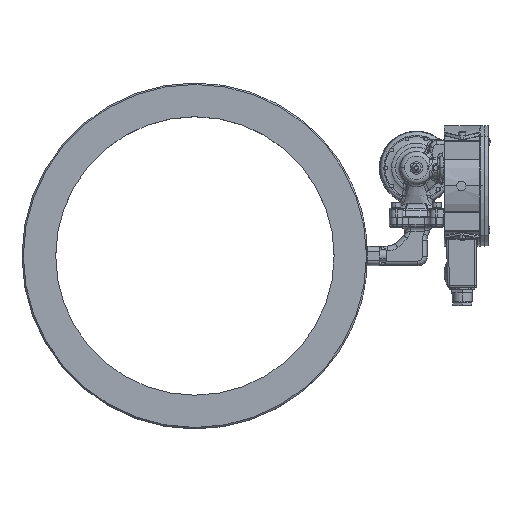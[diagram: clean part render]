
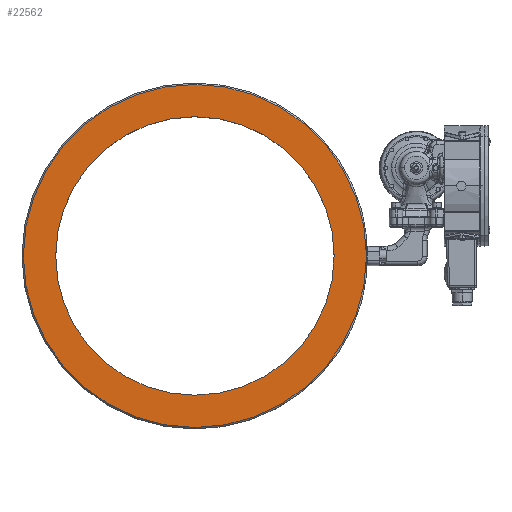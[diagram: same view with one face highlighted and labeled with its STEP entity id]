
A CAD part, top view. The second image highlights one B-rep face of the part: STEP entity #22562.
In plain terms, the highlighted planar face has unit normal (0, 0, 1).
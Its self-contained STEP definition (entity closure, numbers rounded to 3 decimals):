
#42 = ORIENTED_EDGE ( 'NONE', *, *, #40468, .F. ) ;
#836 = CARTESIAN_POINT ( 'NONE',  ( -246.69, 123.307, 57.468 ) ) ;
#933 = EDGE_CURVE ( 'NONE', #47597, #60468, #99019, .T. ) ;
#7295 = ORIENTED_EDGE ( 'NONE', *, *, #9416, .F. ) ;
#8779 = ORIENTED_EDGE ( 'NONE', *, *, #933, .T. ) ;
#9416 = EDGE_CURVE ( 'NONE', #101417, #37786, #96047, .T. ) ;
#10211 = EDGE_CURVE ( 'NONE', #60468, #47597, #59589, .T. ) ;
#13471 = EDGE_LOOP ( 'NONE', ( #60333, #8779 ) ) ;
#16350 = FACE_OUTER_BOUND ( 'NONE', #93649, .T. ) ;
#16480 = AXIS2_PLACEMENT_3D ( 'NONE', #88592, #88480, #88390 ) ;
#20010 = CIRCLE ( 'NONE', #76614, 191. ) ;
#20441 = DIRECTION ( 'NONE',  ( 0., 1., 0. ) ) ;
#20522 = DIRECTION ( 'NONE',  ( 0., 0., -1. ) ) ;
#20643 = CARTESIAN_POINT ( 'NONE',  ( -246.69, -67.693, 57.468 ) ) ;
#22302 = AXIS2_PLACEMENT_3D ( 'NONE', #53994, #49104, #48770 ) ;
#22562 = ADVANCED_FACE ( 'NONE', ( #16350, #32535 ), #41786, .T. ) ;
#26799 = CARTESIAN_POINT ( 'NONE',  ( -229.134, -67.693, 57.468 ) ) ;
#32535 = FACE_BOUND ( 'NONE', #13471, .T. ) ;
#34837 = DIRECTION ( 'NONE',  ( 1., 0., 0. ) ) ;
#37786 = VERTEX_POINT ( 'NONE', #836 ) ;
#40468 = EDGE_CURVE ( 'NONE', #37786, #101417, #20010, .T. ) ;
#41786 = PLANE ( 'NONE',  #49649 ) ;
#44655 = CARTESIAN_POINT ( 'NONE',  ( -246.69, -258.693, 57.468 ) ) ;
#46515 = DIRECTION ( 'NONE',  ( 0., 0., -1. ) ) ;
#47597 = VERTEX_POINT ( 'NONE', #65802 ) ;
#48770 = DIRECTION ( 'NONE',  ( -1., 0., 0. ) ) ;
#49104 = DIRECTION ( 'NONE',  ( 0., 0., -1. ) ) ;
#49649 = AXIS2_PLACEMENT_3D ( 'NONE', #26799, #81833, #34837 ) ;
#53994 = CARTESIAN_POINT ( 'NONE',  ( -246.69, -67.693, 57.468 ) ) ;
#54321 = AXIS2_PLACEMENT_3D ( 'NONE', #20643, #20522, #20441 ) ;
#59589 = CIRCLE ( 'NONE', #16480, 155. ) ;
#60333 = ORIENTED_EDGE ( 'NONE', *, *, #10211, .T. ) ;
#60468 = VERTEX_POINT ( 'NONE', #101421 ) ;
#65802 = CARTESIAN_POINT ( 'NONE',  ( -91.69, -67.693, 57.468 ) ) ;
#76614 = AXIS2_PLACEMENT_3D ( 'NONE', #93161, #46515, #100892 ) ;
#81833 = DIRECTION ( 'NONE',  ( 0., 0., 1. ) ) ;
#88390 = DIRECTION ( 'NONE',  ( -1., 0., 0. ) ) ;
#88480 = DIRECTION ( 'NONE',  ( 0., 0., -1. ) ) ;
#88592 = CARTESIAN_POINT ( 'NONE',  ( -246.69, -67.693, 57.468 ) ) ;
#93161 = CARTESIAN_POINT ( 'NONE',  ( -246.69, -67.693, 57.468 ) ) ;
#93649 = EDGE_LOOP ( 'NONE', ( #42, #7295 ) ) ;
#96047 = CIRCLE ( 'NONE', #54321, 191. ) ;
#99019 = CIRCLE ( 'NONE', #22302, 155. ) ;
#100892 = DIRECTION ( 'NONE',  ( 0., 1., 0. ) ) ;
#101417 = VERTEX_POINT ( 'NONE', #44655 ) ;
#101421 = CARTESIAN_POINT ( 'NONE',  ( -401.69, -67.693, 57.468 ) ) ;
